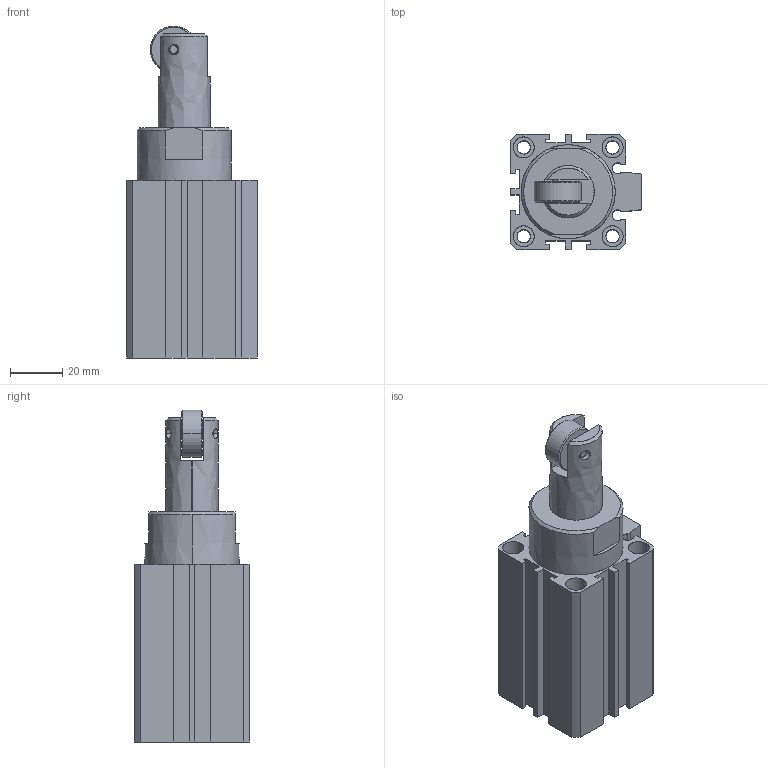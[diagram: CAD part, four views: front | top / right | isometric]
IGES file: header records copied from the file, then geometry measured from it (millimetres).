
Start section: SolidWorks IGES file using analytic representation for surfaces
Global section: file name: C:\Documents and Settings\admin\Bureau\stage de yaya\Plan Philippe Pince\PINCE\VUSB\pièces en 3D\VUSB STEP\ELOC-3DWG\ELOC-32-20-TIGE SORTIE.IGS; native system: SolidWorks 2007; preprocessor: SolidWorks 2007; author: admin; date: 080328.085129; units: millimetre
Bounding box: 50 x 44 x 127 mm (x, y, z)
Surface area: 38502.2 mm2 (no closed solid volume)
Topology: 0 solids, 0 shells, 835 faces, 10387 edges, 10429 vertices
Faces by surface type: bspline 773, revolution 62
